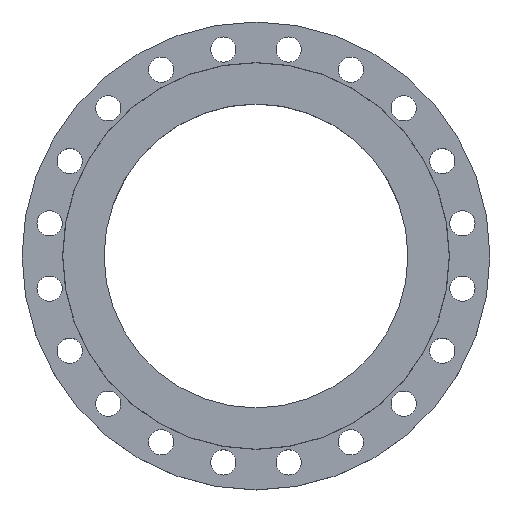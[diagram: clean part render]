
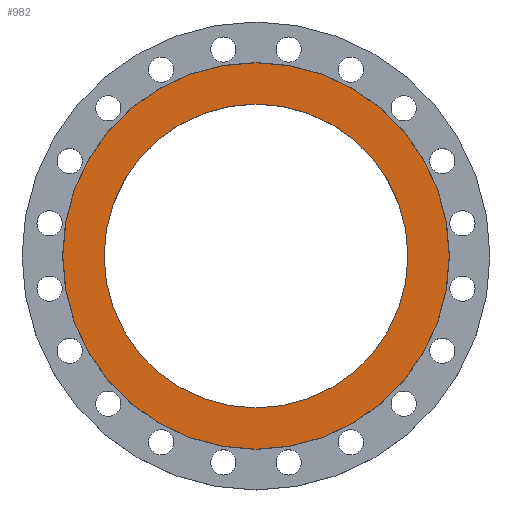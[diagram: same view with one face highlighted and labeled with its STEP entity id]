
A CAD part, top view. The second image highlights one B-rep face of the part: STEP entity #982.
In plain terms, the highlighted planar face has unit normal (0, 0, 1).
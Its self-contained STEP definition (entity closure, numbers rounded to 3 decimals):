
#91 = DIRECTION ( 'NONE',  ( -1., 0., 0. ) ) ;
#94 = DIRECTION ( 'NONE',  ( 0., 0., -1. ) ) ;
#97 = CARTESIAN_POINT ( 'NONE',  ( 0., 0., 0. ) ) ;
#101 = DIRECTION ( 'NONE',  ( -1., 0., 0. ) ) ;
#102 = DIRECTION ( 'NONE',  ( 0., 0., -1. ) ) ;
#108 = CARTESIAN_POINT ( 'NONE',  ( 0., 0., 0. ) ) ;
#385 = CIRCLE ( 'NONE', #390, 289. ) ;
#390 = AXIS2_PLACEMENT_3D ( 'NONE', #591, #590, #589 ) ;
#396 = CIRCLE ( 'NONE', #734, 367.5 ) ;
#399 = CARTESIAN_POINT ( 'NONE',  ( -289., 0., 0. ) ) ;
#452 = DIRECTION ( 'NONE',  ( 1., 0., 0. ) ) ;
#453 = DIRECTION ( 'NONE',  ( 0., 0., 1. ) ) ;
#454 = CARTESIAN_POINT ( 'NONE',  ( 0., 0., 0. ) ) ;
#455 = PLANE ( 'NONE',  #1338 ) ;
#456 = FACE_OUTER_BOUND ( 'NONE', #1727, .T. ) ;
#458 = FACE_BOUND ( 'NONE', #1204, .T. ) ;
#490 = CARTESIAN_POINT ( 'NONE',  ( -367.5, 0., 0. ) ) ;
#508 = DIRECTION ( 'NONE',  ( -1., 0., 0. ) ) ;
#510 = DIRECTION ( 'NONE',  ( 0., 0., -1. ) ) ;
#513 = CARTESIAN_POINT ( 'NONE',  ( 0., 0., 0. ) ) ;
#589 = DIRECTION ( 'NONE',  ( -1., 0., 0. ) ) ;
#590 = DIRECTION ( 'NONE',  ( 0., 0., -1. ) ) ;
#591 = CARTESIAN_POINT ( 'NONE',  ( 0., 0., 0. ) ) ;
#666 = EDGE_CURVE ( 'NONE', #1611, #1114, #385, .T. ) ;
#734 = AXIS2_PLACEMENT_3D ( 'NONE', #108, #102, #101 ) ;
#790 = EDGE_CURVE ( 'NONE', #1114, #1611, #1065, .T. ) ;
#857 = VERTEX_POINT ( 'NONE', #490 ) ;
#925 = ORIENTED_EDGE ( 'NONE', *, *, #1423, .F. ) ;
#928 = ORIENTED_EDGE ( 'NONE', *, *, #1428, .F. ) ;
#929 = ORIENTED_EDGE ( 'NONE', *, *, #666, .T. ) ;
#930 = ORIENTED_EDGE ( 'NONE', *, *, #790, .T. ) ;
#982 = ADVANCED_FACE ( 'NONE', ( #458, #456 ), #455, .T. ) ;
#1009 = CARTESIAN_POINT ( 'NONE',  ( 367.5, 0., 0. ) ) ;
#1065 = CIRCLE ( 'NONE', #1073, 289. ) ;
#1073 = AXIS2_PLACEMENT_3D ( 'NONE', #513, #510, #508 ) ;
#1084 = CIRCLE ( 'NONE', #1998, 367.5 ) ;
#1114 = VERTEX_POINT ( 'NONE', #399 ) ;
#1204 = EDGE_LOOP ( 'NONE', ( #930, #929 ) ) ;
#1338 = AXIS2_PLACEMENT_3D ( 'NONE', #454, #453, #452 ) ;
#1423 = EDGE_CURVE ( 'NONE', #1803, #857, #396, .T. ) ;
#1428 = EDGE_CURVE ( 'NONE', #857, #1803, #1084, .T. ) ;
#1611 = VERTEX_POINT ( 'NONE', #1747 ) ;
#1727 = EDGE_LOOP ( 'NONE', ( #928, #925 ) ) ;
#1747 = CARTESIAN_POINT ( 'NONE',  ( 289., 0., 0. ) ) ;
#1803 = VERTEX_POINT ( 'NONE', #1009 ) ;
#1998 = AXIS2_PLACEMENT_3D ( 'NONE', #97, #94, #91 ) ;
